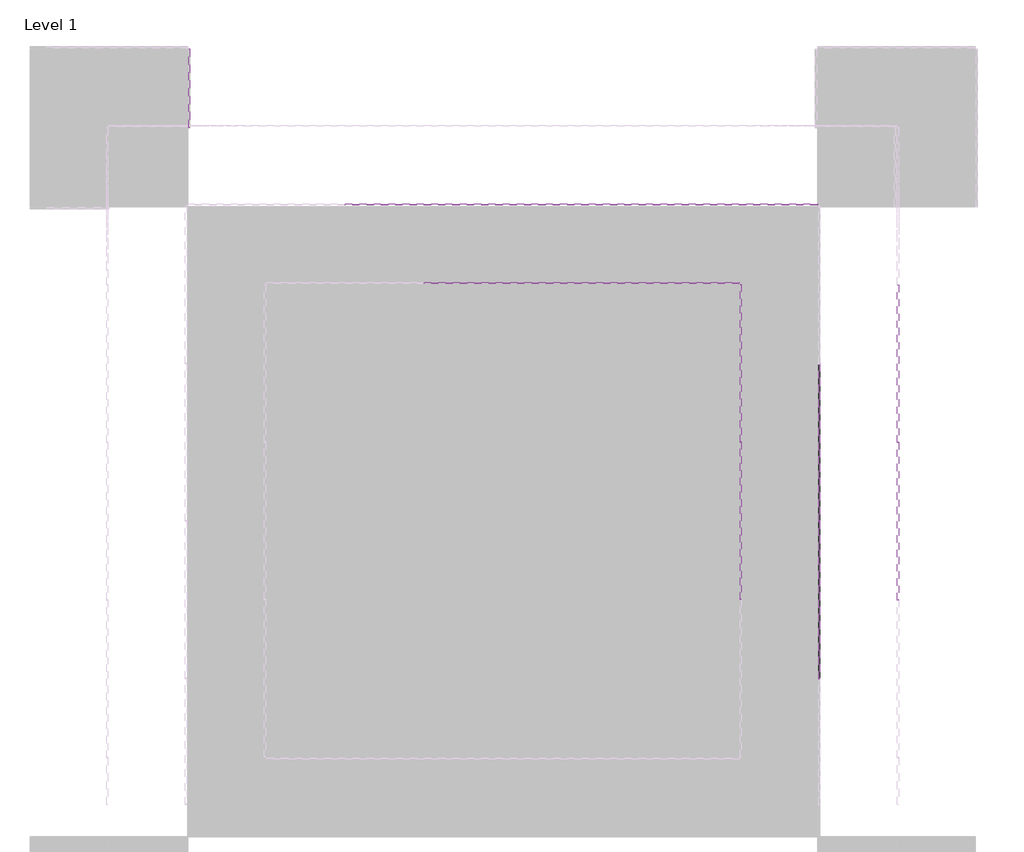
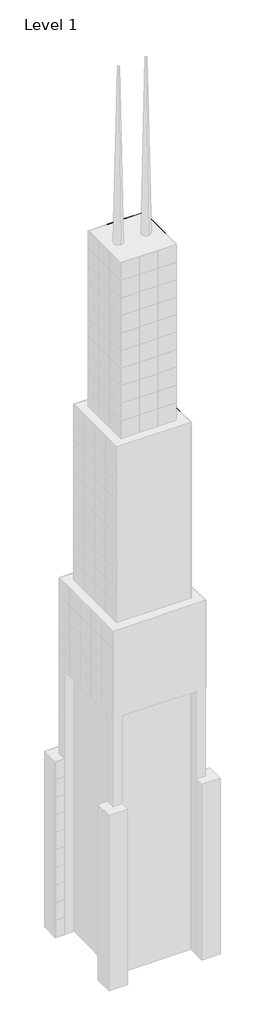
# One storey, part 9 of 15: 137 plates.
"""IFC4 building model written with IfcOpenShell, lengths in millimetres."""

from ifc_helpers import new_model, si_unit, origin, place, context, project, spatial, transform, mapped, element, save
from components import system_panel_glazed_9c75bc08, system_panel_glazed_aa64d645, system_panel_glazed_b248394d

model = new_model("IFC4")

# Units and contexts
model_context = context("Model", 3, world=origin())
ifc_project = project(units=[si_unit("LENGTHUNIT", "METRE", prefix="MILLI")], contexts=[model_context])

# Site, building, storey
site = spatial("IfcSite", under=ifc_project)
building = spatial("IfcBuilding", under=site)
storey = spatial("IfcBuildingStorey", under=building, Name="Level 1", Elevation=0.0)

# Plates
placement = place(None, origin())
system_panel_glazed_shape = system_panel_glazed_9c75bc08(model_context)
element("IfcPlate", 1, ObjectType="System Panel : Glazed", at=placement, inside=storey, context=model_context, shape_type="MappedRepresentation", body=[
    mapped(system_panel_glazed_shape, transform((-19315.4161695, 10259.9495511, 18288.0), x_axis=(0.0, 1.0, 0.0), y_axis=(-1.0, 0.0, 0.0), z_axis=(0.0, 0.0, 1.0))),
])
element("IfcPlate", 2, ObjectType="System Panel : Glazed", at=placement, inside=storey, context=model_context, shape_type="MappedRepresentation", body=[
    mapped(system_panel_glazed_shape, transform((-19315.4161695, 10259.9495511, 21336.0), x_axis=(0.0, 1.0, 0.0), y_axis=(-1.0, 0.0, 0.0), z_axis=(0.0, 0.0, 1.0))),
])
element("IfcPlate", 3, ObjectType="System Panel : Glazed", at=placement, inside=storey, context=model_context, shape_type="MappedRepresentation", body=[
    mapped(system_panel_glazed_shape, transform((-19315.4161695, 10259.9495511, 24384.0), x_axis=(0.0, 1.0, 0.0), y_axis=(-1.0, 0.0, 0.0), z_axis=(0.0, 0.0, 1.0))),
])
element("IfcPlate", 4, ObjectType="System Panel : Glazed", at=placement, inside=storey, context=model_context, shape_type="MappedRepresentation", body=[
    mapped(system_panel_glazed_shape, transform((-19315.4161695, 10259.9495511, 27432.0), x_axis=(0.0, 1.0, 0.0), y_axis=(-1.0, 0.0, 0.0), z_axis=(0.0, 0.0, 1.0))),
])
system_panel_glazed_2_shape = system_panel_glazed_aa64d645(model_context)
element("IfcPlate", 5, ObjectType="System Panel : Glazed", at=placement, inside=storey, context=model_context, shape_type="MappedRepresentation", body=[
    mapped(system_panel_glazed_2_shape, transform((-5599.4161695, 1877.9495511, 45720.0), x_axis=(0.0, 1.0, 0.0), y_axis=(-1.0, 0.0, 0.0), z_axis=(0.0, 0.0, 1.0))),
])
element("IfcPlate", 6, ObjectType="System Panel : Glazed", at=placement, inside=storey, context=model_context, shape_type="MappedRepresentation", body=[
    mapped(system_panel_glazed_2_shape, transform((-5599.4161695, 4925.9495511, 45720.0), x_axis=(0.0, 1.0, 0.0), y_axis=(-1.0, 0.0, 0.0), z_axis=(0.0, 0.0, 1.0))),
])
element("IfcPlate", 7, ObjectType="System Panel : Glazed", at=placement, inside=storey, context=model_context, shape_type="MappedRepresentation", body=[
    mapped(system_panel_glazed_2_shape, transform((-5599.4161695, 1877.9495511, 48768.0), x_axis=(0.0, 1.0, 0.0), y_axis=(-1.0, 0.0, 0.0), z_axis=(0.0, 0.0, 1.0))),
])
element("IfcPlate", 8, ObjectType="System Panel : Glazed", at=placement, inside=storey, context=model_context, shape_type="MappedRepresentation", body=[
    mapped(system_panel_glazed_2_shape, transform((-5599.4161695, 4925.9495511, 48768.0), x_axis=(0.0, 1.0, 0.0), y_axis=(-1.0, 0.0, 0.0), z_axis=(0.0, 0.0, 1.0))),
])
element("IfcPlate", 9, ObjectType="System Panel : Glazed", at=placement, inside=storey, context=model_context, shape_type="MappedRepresentation", body=[
    mapped(system_panel_glazed_2_shape, transform((-5599.4161695, 1877.9495511, 51816.0), x_axis=(0.0, 1.0, 0.0), y_axis=(-1.0, 0.0, 0.0), z_axis=(0.0, 0.0, 1.0))),
])
element("IfcPlate", 10, ObjectType="System Panel : Glazed", at=placement, inside=storey, context=model_context, shape_type="MappedRepresentation", body=[
    mapped(system_panel_glazed_2_shape, transform((-5599.4161695, 4925.9495511, 51816.0), x_axis=(0.0, 1.0, 0.0), y_axis=(-1.0, 0.0, 0.0), z_axis=(0.0, 0.0, 1.0))),
])
element("IfcPlate", 11, ObjectType="System Panel : Glazed", at=placement, inside=storey, context=model_context, shape_type="MappedRepresentation", body=[
    mapped(system_panel_glazed_2_shape, transform((-5599.4161695, 1877.9495511, 54864.0), x_axis=(0.0, 1.0, 0.0), y_axis=(-1.0, 0.0, 0.0), z_axis=(0.0, 0.0, 1.0))),
])
element("IfcPlate", 12, ObjectType="System Panel : Glazed", at=placement, inside=storey, context=model_context, shape_type="MappedRepresentation", body=[
    mapped(system_panel_glazed_2_shape, transform((-5599.4161695, 4925.9495511, 54864.0), x_axis=(0.0, 1.0, 0.0), y_axis=(-1.0, 0.0, 0.0), z_axis=(0.0, 0.0, 1.0))),
])
element("IfcPlate", 13, ObjectType="System Panel : Glazed", at=placement, inside=storey, context=model_context, shape_type="MappedRepresentation", body=[
    mapped(system_panel_glazed_2_shape, transform((-5599.4161695, 1877.9495511, 57912.0), x_axis=(0.0, 1.0, 0.0), y_axis=(-1.0, 0.0, 0.0), z_axis=(0.0, 0.0, 1.0))),
])
element("IfcPlate", 14, ObjectType="System Panel : Glazed", at=placement, inside=storey, context=model_context, shape_type="MappedRepresentation", body=[
    mapped(system_panel_glazed_2_shape, transform((-5599.4161695, 4925.9495511, 57912.0), x_axis=(0.0, 1.0, 0.0), y_axis=(-1.0, 0.0, 0.0), z_axis=(0.0, 0.0, 1.0))),
])
element("IfcPlate", 15, ObjectType="System Panel : Glazed", at=placement, inside=storey, context=model_context, shape_type="MappedRepresentation", body=[
    mapped(system_panel_glazed_2_shape, transform((-7123.4161695, 353.9495511, 60960.0), x_axis=(0.0, 1.0, 0.0), y_axis=(-1.0, 0.0, 0.0), z_axis=(0.0, 0.0, 1.0))),
])
element("IfcPlate", 16, ObjectType="System Panel : Glazed", at=placement, inside=storey, context=model_context, shape_type="MappedRepresentation", body=[
    mapped(system_panel_glazed_2_shape, transform((-7123.4161695, 3401.9495511, 60960.0), x_axis=(0.0, 1.0, 0.0), y_axis=(-1.0, 0.0, 0.0), z_axis=(0.0, 0.0, 1.0))),
])
element("IfcPlate", 17, ObjectType="System Panel : Glazed", at=placement, inside=storey, context=model_context, shape_type="MappedRepresentation", body=[
    mapped(system_panel_glazed_2_shape, transform((-7123.4161695, 6449.9495511, 60960.0), x_axis=(0.0, 1.0, 0.0), y_axis=(-1.0, 0.0, 0.0), z_axis=(0.0, 0.0, 1.0))),
])
element("IfcPlate", 18, ObjectType="System Panel : Glazed", at=placement, inside=storey, context=model_context, shape_type="MappedRepresentation", body=[
    mapped(system_panel_glazed_2_shape, transform((-7123.4161695, 353.9495511, 64008.0), x_axis=(0.0, 1.0, 0.0), y_axis=(-1.0, 0.0, 0.0), z_axis=(0.0, 0.0, 1.0))),
])
element("IfcPlate", 19, ObjectType="System Panel : Glazed", at=placement, inside=storey, context=model_context, shape_type="MappedRepresentation", body=[
    mapped(system_panel_glazed_2_shape, transform((-7123.4161695, 3401.9495511, 64008.0), x_axis=(0.0, 1.0, 0.0), y_axis=(-1.0, 0.0, 0.0), z_axis=(0.0, 0.0, 1.0))),
])
element("IfcPlate", 20, ObjectType="System Panel : Glazed", at=placement, inside=storey, context=model_context, shape_type="MappedRepresentation", body=[
    mapped(system_panel_glazed_2_shape, transform((-7123.4161695, 6449.9495511, 64008.0), x_axis=(0.0, 1.0, 0.0), y_axis=(-1.0, 0.0, 0.0), z_axis=(0.0, 0.0, 1.0))),
])
element("IfcPlate", 21, ObjectType="System Panel : Glazed", at=placement, inside=storey, context=model_context, shape_type="MappedRepresentation", body=[
    mapped(system_panel_glazed_2_shape, transform((-7123.4161695, 353.9495511, 67056.0), x_axis=(0.0, 1.0, 0.0), y_axis=(-1.0, 0.0, 0.0), z_axis=(0.0, 0.0, 1.0))),
])
element("IfcPlate", 22, ObjectType="System Panel : Glazed", at=placement, inside=storey, context=model_context, shape_type="MappedRepresentation", body=[
    mapped(system_panel_glazed_2_shape, transform((-7123.4161695, 3401.9495511, 67056.0), x_axis=(0.0, 1.0, 0.0), y_axis=(-1.0, 0.0, 0.0), z_axis=(0.0, 0.0, 1.0))),
])
element("IfcPlate", 23, ObjectType="System Panel : Glazed", at=placement, inside=storey, context=model_context, shape_type="MappedRepresentation", body=[
    mapped(system_panel_glazed_2_shape, transform((-7123.4161695, 6449.9495511, 67056.0), x_axis=(0.0, 1.0, 0.0), y_axis=(-1.0, 0.0, 0.0), z_axis=(0.0, 0.0, 1.0))),
])
element("IfcPlate", 24, ObjectType="System Panel : Glazed", at=placement, inside=storey, context=model_context, shape_type="MappedRepresentation", body=[
    mapped(system_panel_glazed_2_shape, transform((-7123.4161695, 353.9495511, 70104.0), x_axis=(0.0, 1.0, 0.0), y_axis=(-1.0, 0.0, 0.0), z_axis=(0.0, 0.0, 1.0))),
])
element("IfcPlate", 25, ObjectType="System Panel : Glazed", at=placement, inside=storey, context=model_context, shape_type="MappedRepresentation", body=[
    mapped(system_panel_glazed_2_shape, transform((-7123.4161695, 3401.9495511, 70104.0), x_axis=(0.0, 1.0, 0.0), y_axis=(-1.0, 0.0, 0.0), z_axis=(0.0, 0.0, 1.0))),
])
element("IfcPlate", 26, ObjectType="System Panel : Glazed", at=placement, inside=storey, context=model_context, shape_type="MappedRepresentation", body=[
    mapped(system_panel_glazed_2_shape, transform((-7123.4161695, 353.9495511, 73152.0), x_axis=(0.0, 1.0, 0.0), y_axis=(-1.0, 0.0, 0.0), z_axis=(0.0, 0.0, 1.0))),
])
element("IfcPlate", 27, ObjectType="System Panel : Glazed", at=placement, inside=storey, context=model_context, shape_type="MappedRepresentation", body=[
    mapped(system_panel_glazed_2_shape, transform((-7123.4161695, 3401.9495511, 73152.0), x_axis=(0.0, 1.0, 0.0), y_axis=(-1.0, 0.0, 0.0), z_axis=(0.0, 0.0, 1.0))),
])
element("IfcPlate", 28, ObjectType="System Panel : Glazed", at=placement, inside=storey, context=model_context, shape_type="MappedRepresentation", body=[
    mapped(system_panel_glazed_2_shape, transform((-7123.4161695, 353.9495511, 76200.0), x_axis=(0.0, 1.0, 0.0), y_axis=(-1.0, 0.0, 0.0), z_axis=(0.0, 0.0, 1.0))),
])
element("IfcPlate", 29, ObjectType="System Panel : Glazed", at=placement, inside=storey, context=model_context, shape_type="MappedRepresentation", body=[
    mapped(system_panel_glazed_2_shape, transform((-7123.4161695, 3401.9495511, 76200.0), x_axis=(0.0, 1.0, 0.0), y_axis=(-1.0, 0.0, 0.0), z_axis=(0.0, 0.0, 1.0))),
])
element("IfcPlate", 30, ObjectType="System Panel : Glazed", at=placement, inside=storey, context=model_context, shape_type="MappedRepresentation", body=[
    mapped(system_panel_glazed_2_shape, transform((-7123.4161695, 353.9495511, 79248.0), x_axis=(0.0, 1.0, 0.0), y_axis=(-1.0, 0.0, 0.0), z_axis=(0.0, 0.0, 1.0))),
])
element("IfcPlate", 31, ObjectType="System Panel : Glazed", at=placement, inside=storey, context=model_context, shape_type="MappedRepresentation", body=[
    mapped(system_panel_glazed_2_shape, transform((-7123.4161695, 3401.9495511, 79248.0), x_axis=(0.0, 1.0, 0.0), y_axis=(-1.0, 0.0, 0.0), z_axis=(0.0, 0.0, 1.0))),
])
element("IfcPlate", 32, ObjectType="System Panel : Glazed", at=placement, inside=storey, context=model_context, shape_type="MappedRepresentation", body=[
    mapped(system_panel_glazed_2_shape, transform((-7123.4161695, 353.9495511, 82296.0), x_axis=(0.0, 1.0, 0.0), y_axis=(-1.0, 0.0, 0.0), z_axis=(0.0, 0.0, 1.0))),
])
element("IfcPlate", 33, ObjectType="System Panel : Glazed", at=placement, inside=storey, context=model_context, shape_type="MappedRepresentation", body=[
    mapped(system_panel_glazed_2_shape, transform((-7123.4161695, 3401.9495511, 82296.0), x_axis=(0.0, 1.0, 0.0), y_axis=(-1.0, 0.0, 0.0), z_axis=(0.0, 0.0, 1.0))),
])
element("IfcPlate", 34, ObjectType="System Panel : Glazed", at=placement, inside=storey, context=model_context, shape_type="MappedRepresentation", body=[
    mapped(system_panel_glazed_2_shape, transform((-7123.4161695, 353.9495511, 85344.0), x_axis=(0.0, 1.0, 0.0), y_axis=(-1.0, 0.0, 0.0), z_axis=(0.0, 0.0, 1.0))),
])
element("IfcPlate", 35, ObjectType="System Panel : Glazed", at=placement, inside=storey, context=model_context, shape_type="MappedRepresentation", body=[
    mapped(system_panel_glazed_2_shape, transform((-7123.4161695, 3401.9495511, 85344.0), x_axis=(0.0, 1.0, 0.0), y_axis=(-1.0, 0.0, 0.0), z_axis=(0.0, 0.0, 1.0))),
])
element("IfcPlate", 36, ObjectType="System Panel : Glazed", at=placement, inside=storey, context=model_context, shape_type="MappedRepresentation", body=[
    mapped(system_panel_glazed_2_shape, transform((-7123.4161695, 353.9495511, 88392.0), x_axis=(0.0, 1.0, 0.0), y_axis=(-1.0, 0.0, 0.0), z_axis=(0.0, 0.0, 1.0))),
])
element("IfcPlate", 37, ObjectType="System Panel : Glazed", at=placement, inside=storey, context=model_context, shape_type="MappedRepresentation", body=[
    mapped(system_panel_glazed_2_shape, transform((-7123.4161695, 3401.9495511, 88392.0), x_axis=(0.0, 1.0, 0.0), y_axis=(-1.0, 0.0, 0.0), z_axis=(0.0, 0.0, 1.0))),
])
element("IfcPlate", 38, ObjectType="System Panel : Glazed", at=placement, inside=storey, context=model_context, shape_type="MappedRepresentation", body=[
    mapped(system_panel_glazed_2_shape, transform((-8647.4161695, 7973.9495511, 60960.0), x_axis=(-1.0, 0.0, 0.0), y_axis=(0.0, -1.0, 0.0), z_axis=(0.0, 0.0, 1.0))),
])
element("IfcPlate", 39, ObjectType="System Panel : Glazed", at=placement, inside=storey, context=model_context, shape_type="MappedRepresentation", body=[
    mapped(system_panel_glazed_2_shape, transform((-11695.4161695, 7973.9495511, 60960.0), x_axis=(-1.0, 0.0, 0.0), y_axis=(0.0, -1.0, 0.0), z_axis=(0.0, 0.0, 1.0))),
])
element("IfcPlate", 40, ObjectType="System Panel : Glazed", at=placement, inside=storey, context=model_context, shape_type="MappedRepresentation", body=[
    mapped(system_panel_glazed_2_shape, transform((-14743.4161695, 7973.9495511, 60960.0), x_axis=(-1.0, 0.0, 0.0), y_axis=(0.0, -1.0, 0.0), z_axis=(0.0, 0.0, 1.0))),
])
element("IfcPlate", 41, ObjectType="System Panel : Glazed", at=placement, inside=storey, context=model_context, shape_type="MappedRepresentation", body=[
    mapped(system_panel_glazed_2_shape, transform((-8647.4161695, 7973.9495511, 64008.0), x_axis=(-1.0, 0.0, 0.0), y_axis=(0.0, -1.0, 0.0), z_axis=(0.0, 0.0, 1.0))),
])
element("IfcPlate", 42, ObjectType="System Panel : Glazed", at=placement, inside=storey, context=model_context, shape_type="MappedRepresentation", body=[
    mapped(system_panel_glazed_2_shape, transform((-11695.4161695, 7973.9495511, 64008.0), x_axis=(-1.0, 0.0, 0.0), y_axis=(0.0, -1.0, 0.0), z_axis=(0.0, 0.0, 1.0))),
])
element("IfcPlate", 43, ObjectType="System Panel : Glazed", at=placement, inside=storey, context=model_context, shape_type="MappedRepresentation", body=[
    mapped(system_panel_glazed_2_shape, transform((-14743.4161695, 7973.9495511, 64008.0), x_axis=(-1.0, 0.0, 0.0), y_axis=(0.0, -1.0, 0.0), z_axis=(0.0, 0.0, 1.0))),
])
element("IfcPlate", 44, ObjectType="System Panel : Glazed", at=placement, inside=storey, context=model_context, shape_type="MappedRepresentation", body=[
    mapped(system_panel_glazed_2_shape, transform((-8647.4161695, 7973.9495511, 67056.0), x_axis=(-1.0, 0.0, 0.0), y_axis=(0.0, -1.0, 0.0), z_axis=(0.0, 0.0, 1.0))),
])
element("IfcPlate", 45, ObjectType="System Panel : Glazed", at=placement, inside=storey, context=model_context, shape_type="MappedRepresentation", body=[
    mapped(system_panel_glazed_2_shape, transform((-11695.4161695, 7973.9495511, 67056.0), x_axis=(-1.0, 0.0, 0.0), y_axis=(0.0, -1.0, 0.0), z_axis=(0.0, 0.0, 1.0))),
])
element("IfcPlate", 46, ObjectType="System Panel : Glazed", at=placement, inside=storey, context=model_context, shape_type="MappedRepresentation", body=[
    mapped(system_panel_glazed_2_shape, transform((-14743.4161695, 7973.9495511, 67056.0), x_axis=(-1.0, 0.0, 0.0), y_axis=(0.0, -1.0, 0.0), z_axis=(0.0, 0.0, 1.0))),
])
element("IfcPlate", 47, ObjectType="System Panel : Glazed", at=placement, inside=storey, context=model_context, shape_type="MappedRepresentation", body=[
    mapped(system_panel_glazed_2_shape, transform((-8647.4161695, 7973.9495511, 70104.0), x_axis=(-1.0, 0.0, 0.0), y_axis=(0.0, -1.0, 0.0), z_axis=(0.0, 0.0, 1.0))),
])
element("IfcPlate", 48, ObjectType="System Panel : Glazed", at=placement, inside=storey, context=model_context, shape_type="MappedRepresentation", body=[
    mapped(system_panel_glazed_2_shape, transform((-11695.4161695, 7973.9495511, 70104.0), x_axis=(-1.0, 0.0, 0.0), y_axis=(0.0, -1.0, 0.0), z_axis=(0.0, 0.0, 1.0))),
])
element("IfcPlate", 49, ObjectType="System Panel : Glazed", at=placement, inside=storey, context=model_context, shape_type="MappedRepresentation", body=[
    mapped(system_panel_glazed_2_shape, transform((-14743.4161695, 7973.9495511, 70104.0), x_axis=(-1.0, 0.0, 0.0), y_axis=(0.0, -1.0, 0.0), z_axis=(0.0, 0.0, 1.0))),
])
element("IfcPlate", 50, ObjectType="System Panel : Glazed", at=placement, inside=storey, context=model_context, shape_type="MappedRepresentation", body=[
    mapped(system_panel_glazed_2_shape, transform((-8647.4161695, 7973.9495511, 73152.0), x_axis=(-1.0, 0.0, 0.0), y_axis=(0.0, -1.0, 0.0), z_axis=(0.0, 0.0, 1.0))),
])
element("IfcPlate", 51, ObjectType="System Panel : Glazed", at=placement, inside=storey, context=model_context, shape_type="MappedRepresentation", body=[
    mapped(system_panel_glazed_2_shape, transform((-11695.4161695, 7973.9495511, 73152.0), x_axis=(-1.0, 0.0, 0.0), y_axis=(0.0, -1.0, 0.0), z_axis=(0.0, 0.0, 1.0))),
])
element("IfcPlate", 52, ObjectType="System Panel : Glazed", at=placement, inside=storey, context=model_context, shape_type="MappedRepresentation", body=[
    mapped(system_panel_glazed_2_shape, transform((-14743.4161695, 7973.9495511, 73152.0), x_axis=(-1.0, 0.0, 0.0), y_axis=(0.0, -1.0, 0.0), z_axis=(0.0, 0.0, 1.0))),
])
element("IfcPlate", 53, ObjectType="System Panel : Glazed", at=placement, inside=storey, context=model_context, shape_type="MappedRepresentation", body=[
    mapped(system_panel_glazed_2_shape, transform((-8647.4161695, 7973.9495511, 76200.0), x_axis=(-1.0, 0.0, 0.0), y_axis=(0.0, -1.0, 0.0), z_axis=(0.0, 0.0, 1.0))),
])
element("IfcPlate", 54, ObjectType="System Panel : Glazed", at=placement, inside=storey, context=model_context, shape_type="MappedRepresentation", body=[
    mapped(system_panel_glazed_2_shape, transform((-11695.4161695, 7973.9495511, 76200.0), x_axis=(-1.0, 0.0, 0.0), y_axis=(0.0, -1.0, 0.0), z_axis=(0.0, 0.0, 1.0))),
])
element("IfcPlate", 55, ObjectType="System Panel : Glazed", at=placement, inside=storey, context=model_context, shape_type="MappedRepresentation", body=[
    mapped(system_panel_glazed_2_shape, transform((-14743.4161695, 7973.9495511, 76200.0), x_axis=(-1.0, 0.0, 0.0), y_axis=(0.0, -1.0, 0.0), z_axis=(0.0, 0.0, 1.0))),
])
element("IfcPlate", 56, ObjectType="System Panel : Glazed", at=placement, inside=storey, context=model_context, shape_type="MappedRepresentation", body=[
    mapped(system_panel_glazed_2_shape, transform((-8647.4161695, 7973.9495511, 79248.0), x_axis=(-1.0, 0.0, 0.0), y_axis=(0.0, -1.0, 0.0), z_axis=(0.0, 0.0, 1.0))),
])
element("IfcPlate", 57, ObjectType="System Panel : Glazed", at=placement, inside=storey, context=model_context, shape_type="MappedRepresentation", body=[
    mapped(system_panel_glazed_2_shape, transform((-11695.4161695, 7973.9495511, 79248.0), x_axis=(-1.0, 0.0, 0.0), y_axis=(0.0, -1.0, 0.0), z_axis=(0.0, 0.0, 1.0))),
])
element("IfcPlate", 58, ObjectType="System Panel : Glazed", at=placement, inside=storey, context=model_context, shape_type="MappedRepresentation", body=[
    mapped(system_panel_glazed_2_shape, transform((-14743.4161695, 7973.9495511, 79248.0), x_axis=(-1.0, 0.0, 0.0), y_axis=(0.0, -1.0, 0.0), z_axis=(0.0, 0.0, 1.0))),
])
element("IfcPlate", 59, ObjectType="System Panel : Glazed", at=placement, inside=storey, context=model_context, shape_type="MappedRepresentation", body=[
    mapped(system_panel_glazed_2_shape, transform((-8647.4161695, 7973.9495511, 82296.0), x_axis=(-1.0, 0.0, 0.0), y_axis=(0.0, -1.0, 0.0), z_axis=(0.0, 0.0, 1.0))),
])
element("IfcPlate", 60, ObjectType="System Panel : Glazed", at=placement, inside=storey, context=model_context, shape_type="MappedRepresentation", body=[
    mapped(system_panel_glazed_2_shape, transform((-11695.4161695, 7973.9495511, 82296.0), x_axis=(-1.0, 0.0, 0.0), y_axis=(0.0, -1.0, 0.0), z_axis=(0.0, 0.0, 1.0))),
])
element("IfcPlate", 61, ObjectType="System Panel : Glazed", at=placement, inside=storey, context=model_context, shape_type="MappedRepresentation", body=[
    mapped(system_panel_glazed_2_shape, transform((-14743.4161695, 7973.9495511, 82296.0), x_axis=(-1.0, 0.0, 0.0), y_axis=(0.0, -1.0, 0.0), z_axis=(0.0, 0.0, 1.0))),
])
element("IfcPlate", 62, ObjectType="System Panel : Glazed", at=placement, inside=storey, context=model_context, shape_type="MappedRepresentation", body=[
    mapped(system_panel_glazed_2_shape, transform((-8647.4161695, 7973.9495511, 85344.0), x_axis=(-1.0, 0.0, 0.0), y_axis=(0.0, -1.0, 0.0), z_axis=(0.0, 0.0, 1.0))),
])
element("IfcPlate", 63, ObjectType="System Panel : Glazed", at=placement, inside=storey, context=model_context, shape_type="MappedRepresentation", body=[
    mapped(system_panel_glazed_2_shape, transform((-11695.4161695, 7973.9495511, 85344.0), x_axis=(-1.0, 0.0, 0.0), y_axis=(0.0, -1.0, 0.0), z_axis=(0.0, 0.0, 1.0))),
])
element("IfcPlate", 64, ObjectType="System Panel : Glazed", at=placement, inside=storey, context=model_context, shape_type="MappedRepresentation", body=[
    mapped(system_panel_glazed_2_shape, transform((-14743.4161695, 7973.9495511, 85344.0), x_axis=(-1.0, 0.0, 0.0), y_axis=(0.0, -1.0, 0.0), z_axis=(0.0, 0.0, 1.0))),
])
element("IfcPlate", 65, ObjectType="System Panel : Glazed", at=placement, inside=storey, context=model_context, shape_type="MappedRepresentation", body=[
    mapped(system_panel_glazed_2_shape, transform((-8647.4161695, 7973.9495511, 88392.0), x_axis=(-1.0, 0.0, 0.0), y_axis=(0.0, -1.0, 0.0), z_axis=(0.0, 0.0, 1.0))),
])
element("IfcPlate", 66, ObjectType="System Panel : Glazed", at=placement, inside=storey, context=model_context, shape_type="MappedRepresentation", body=[
    mapped(system_panel_glazed_2_shape, transform((-11695.4161695, 7973.9495511, 88392.0), x_axis=(-1.0, 0.0, 0.0), y_axis=(0.0, -1.0, 0.0), z_axis=(0.0, 0.0, 1.0))),
])
element("IfcPlate", 67, ObjectType="System Panel : Glazed", at=placement, inside=storey, context=model_context, shape_type="MappedRepresentation", body=[
    mapped(system_panel_glazed_2_shape, transform((-14743.4161695, 7973.9495511, 88392.0), x_axis=(-1.0, 0.0, 0.0), y_axis=(0.0, -1.0, 0.0), z_axis=(0.0, 0.0, 1.0))),
])
element("IfcPlate", 68, ObjectType="System Panel : Glazed", at=placement, inside=storey, context=model_context, shape_type="MappedRepresentation", body=[
    mapped(system_panel_glazed_2_shape, transform((-10165.8488996, 6449.9495511, 91440.0), x_axis=(-1.0, 0.0, 0.0), y_axis=(0.0, -1.0, 0.0), z_axis=(0.0, 0.0, 1.0))),
])
element("IfcPlate", 69, ObjectType="System Panel : Glazed", at=placement, inside=storey, context=model_context, shape_type="MappedRepresentation", body=[
    mapped(system_panel_glazed_2_shape, transform((-13213.8488996, 6449.9495511, 91440.0), x_axis=(-1.0, 0.0, 0.0), y_axis=(0.0, -1.0, 0.0), z_axis=(0.0, 0.0, 1.0))),
])
element("IfcPlate", 70, ObjectType="System Panel : Glazed", at=placement, inside=storey, context=model_context, shape_type="MappedRepresentation", body=[
    mapped(system_panel_glazed_2_shape, transform((-10165.8488996, 6449.9495511, 94488.0), x_axis=(-1.0, 0.0, 0.0), y_axis=(0.0, -1.0, 0.0), z_axis=(0.0, 0.0, 1.0))),
])
element("IfcPlate", 71, ObjectType="System Panel : Glazed", at=placement, inside=storey, context=model_context, shape_type="MappedRepresentation", body=[
    mapped(system_panel_glazed_2_shape, transform((-13213.8488996, 6449.9495511, 94488.0), x_axis=(-1.0, 0.0, 0.0), y_axis=(0.0, -1.0, 0.0), z_axis=(0.0, 0.0, 1.0))),
])
element("IfcPlate", 72, ObjectType="System Panel : Glazed", at=placement, inside=storey, context=model_context, shape_type="MappedRepresentation", body=[
    mapped(system_panel_glazed_2_shape, transform((-10165.8488996, 6449.9495511, 97536.0), x_axis=(-1.0, 0.0, 0.0), y_axis=(0.0, -1.0, 0.0), z_axis=(0.0, 0.0, 1.0))),
])
element("IfcPlate", 73, ObjectType="System Panel : Glazed", at=placement, inside=storey, context=model_context, shape_type="MappedRepresentation", body=[
    mapped(system_panel_glazed_2_shape, transform((-13213.8488996, 6449.9495511, 97536.0), x_axis=(-1.0, 0.0, 0.0), y_axis=(0.0, -1.0, 0.0), z_axis=(0.0, 0.0, 1.0))),
])
element("IfcPlate", 74, ObjectType="System Panel : Glazed", at=placement, inside=storey, context=model_context, shape_type="MappedRepresentation", body=[
    mapped(system_panel_glazed_2_shape, transform((-10165.8488996, 6449.9495511, 100584.0), x_axis=(-1.0, 0.0, 0.0), y_axis=(0.0, -1.0, 0.0), z_axis=(0.0, 0.0, 1.0))),
])
element("IfcPlate", 75, ObjectType="System Panel : Glazed", at=placement, inside=storey, context=model_context, shape_type="MappedRepresentation", body=[
    mapped(system_panel_glazed_2_shape, transform((-13213.8488996, 6449.9495511, 100584.0), x_axis=(-1.0, 0.0, 0.0), y_axis=(0.0, -1.0, 0.0), z_axis=(0.0, 0.0, 1.0))),
])
element("IfcPlate", 76, ObjectType="System Panel : Glazed", at=placement, inside=storey, context=model_context, shape_type="MappedRepresentation", body=[
    mapped(system_panel_glazed_2_shape, transform((-10165.8488996, 6449.9495511, 103632.0), x_axis=(-1.0, 0.0, 0.0), y_axis=(0.0, -1.0, 0.0), z_axis=(0.0, 0.0, 1.0))),
])
element("IfcPlate", 77, ObjectType="System Panel : Glazed", at=placement, inside=storey, context=model_context, shape_type="MappedRepresentation", body=[
    mapped(system_panel_glazed_2_shape, transform((-13213.8488996, 6449.9495511, 103632.0), x_axis=(-1.0, 0.0, 0.0), y_axis=(0.0, -1.0, 0.0), z_axis=(0.0, 0.0, 1.0))),
])
element("IfcPlate", 78, ObjectType="System Panel : Glazed", at=placement, inside=storey, context=model_context, shape_type="MappedRepresentation", body=[
    mapped(system_panel_glazed_2_shape, transform((-10165.8488996, 6449.9495511, 106680.0), x_axis=(-1.0, 0.0, 0.0), y_axis=(0.0, -1.0, 0.0), z_axis=(0.0, 0.0, 1.0))),
])
element("IfcPlate", 79, ObjectType="System Panel : Glazed", at=placement, inside=storey, context=model_context, shape_type="MappedRepresentation", body=[
    mapped(system_panel_glazed_2_shape, transform((-13213.8488996, 6449.9495511, 106680.0), x_axis=(-1.0, 0.0, 0.0), y_axis=(0.0, -1.0, 0.0), z_axis=(0.0, 0.0, 1.0))),
])
element("IfcPlate", 80, ObjectType="System Panel : Glazed", at=placement, inside=storey, context=model_context, shape_type="MappedRepresentation", body=[
    mapped(system_panel_glazed_2_shape, transform((-10165.8488996, 6449.9495511, 109728.0), x_axis=(-1.0, 0.0, 0.0), y_axis=(0.0, -1.0, 0.0), z_axis=(0.0, 0.0, 1.0))),
])
element("IfcPlate", 81, ObjectType="System Panel : Glazed", at=placement, inside=storey, context=model_context, shape_type="MappedRepresentation", body=[
    mapped(system_panel_glazed_2_shape, transform((-13213.8488996, 6449.9495511, 109728.0), x_axis=(-1.0, 0.0, 0.0), y_axis=(0.0, -1.0, 0.0), z_axis=(0.0, 0.0, 1.0))),
])
element("IfcPlate", 82, ObjectType="System Panel : Glazed", at=placement, inside=storey, context=model_context, shape_type="MappedRepresentation", body=[
    mapped(system_panel_glazed_2_shape, transform((-10165.8488996, 6449.9495511, 112776.0), x_axis=(-1.0, 0.0, 0.0), y_axis=(0.0, -1.0, 0.0), z_axis=(0.0, 0.0, 1.0))),
])
element("IfcPlate", 83, ObjectType="System Panel : Glazed", at=placement, inside=storey, context=model_context, shape_type="MappedRepresentation", body=[
    mapped(system_panel_glazed_2_shape, transform((-13213.8488996, 6449.9495511, 112776.0), x_axis=(-1.0, 0.0, 0.0), y_axis=(0.0, -1.0, 0.0), z_axis=(0.0, 0.0, 1.0))),
])
element("IfcPlate", 84, ObjectType="System Panel : Glazed", at=placement, inside=storey, context=model_context, shape_type="MappedRepresentation", body=[
    mapped(system_panel_glazed_2_shape, transform((-10165.8488996, 6449.9495511, 115824.0), x_axis=(-1.0, 0.0, 0.0), y_axis=(0.0, -1.0, 0.0), z_axis=(0.0, 0.0, 1.0))),
])
element("IfcPlate", 85, ObjectType="System Panel : Glazed", at=placement, inside=storey, context=model_context, shape_type="MappedRepresentation", body=[
    mapped(system_panel_glazed_2_shape, transform((-13213.8488996, 6449.9495511, 115824.0), x_axis=(-1.0, 0.0, 0.0), y_axis=(0.0, -1.0, 0.0), z_axis=(0.0, 0.0, 1.0))),
])
element("IfcPlate", 86, ObjectType="System Panel : Glazed", at=placement, inside=storey, context=model_context, shape_type="MappedRepresentation", body=[
    mapped(system_panel_glazed_2_shape, transform((-10165.8488996, 6449.9495511, 118872.0), x_axis=(-1.0, 0.0, 0.0), y_axis=(0.0, -1.0, 0.0), z_axis=(0.0, 0.0, 1.0))),
])
element("IfcPlate", 87, ObjectType="System Panel : Glazed", at=placement, inside=storey, context=model_context, shape_type="MappedRepresentation", body=[
    mapped(system_panel_glazed_2_shape, transform((-13213.8488996, 6449.9495511, 118872.0), x_axis=(-1.0, 0.0, 0.0), y_axis=(0.0, -1.0, 0.0), z_axis=(0.0, 0.0, 1.0))),
])
element("IfcPlate", 88, ObjectType="System Panel : Glazed", at=placement, inside=storey, context=model_context, shape_type="MappedRepresentation", body=[
    mapped(system_panel_glazed_2_shape, transform((-8641.8488996, 1877.9495511, 91440.0), x_axis=(0.0, 1.0, 0.0), y_axis=(-1.0, 0.0, 0.0), z_axis=(0.0, 0.0, 1.0))),
])
element("IfcPlate", 89, ObjectType="System Panel : Glazed", at=placement, inside=storey, context=model_context, shape_type="MappedRepresentation", body=[
    mapped(system_panel_glazed_2_shape, transform((-8641.8488996, 4925.9495511, 91440.0), x_axis=(0.0, 1.0, 0.0), y_axis=(-1.0, 0.0, 0.0), z_axis=(0.0, 0.0, 1.0))),
])
element("IfcPlate", 90, ObjectType="System Panel : Glazed", at=placement, inside=storey, context=model_context, shape_type="MappedRepresentation", body=[
    mapped(system_panel_glazed_2_shape, transform((-8641.8488996, 1877.9495511, 94488.0), x_axis=(0.0, 1.0, 0.0), y_axis=(-1.0, 0.0, 0.0), z_axis=(0.0, 0.0, 1.0))),
])
element("IfcPlate", 91, ObjectType="System Panel : Glazed", at=placement, inside=storey, context=model_context, shape_type="MappedRepresentation", body=[
    mapped(system_panel_glazed_2_shape, transform((-8641.8488996, 4925.9495511, 94488.0), x_axis=(0.0, 1.0, 0.0), y_axis=(-1.0, 0.0, 0.0), z_axis=(0.0, 0.0, 1.0))),
])
element("IfcPlate", 92, ObjectType="System Panel : Glazed", at=placement, inside=storey, context=model_context, shape_type="MappedRepresentation", body=[
    mapped(system_panel_glazed_2_shape, transform((-8641.8488996, 1877.9495511, 97536.0), x_axis=(0.0, 1.0, 0.0), y_axis=(-1.0, 0.0, 0.0), z_axis=(0.0, 0.0, 1.0))),
])
element("IfcPlate", 93, ObjectType="System Panel : Glazed", at=placement, inside=storey, context=model_context, shape_type="MappedRepresentation", body=[
    mapped(system_panel_glazed_2_shape, transform((-8641.8488996, 4925.9495511, 97536.0), x_axis=(0.0, 1.0, 0.0), y_axis=(-1.0, 0.0, 0.0), z_axis=(0.0, 0.0, 1.0))),
])
element("IfcPlate", 94, ObjectType="System Panel : Glazed", at=placement, inside=storey, context=model_context, shape_type="MappedRepresentation", body=[
    mapped(system_panel_glazed_2_shape, transform((-8641.8488996, 1877.9495511, 100584.0), x_axis=(0.0, 1.0, 0.0), y_axis=(-1.0, 0.0, 0.0), z_axis=(0.0, 0.0, 1.0))),
])
element("IfcPlate", 95, ObjectType="System Panel : Glazed", at=placement, inside=storey, context=model_context, shape_type="MappedRepresentation", body=[
    mapped(system_panel_glazed_2_shape, transform((-8641.8488996, 4925.9495511, 100584.0), x_axis=(0.0, 1.0, 0.0), y_axis=(-1.0, 0.0, 0.0), z_axis=(0.0, 0.0, 1.0))),
])
element("IfcPlate", 96, ObjectType="System Panel : Glazed", at=placement, inside=storey, context=model_context, shape_type="MappedRepresentation", body=[
    mapped(system_panel_glazed_2_shape, transform((-8641.8488996, 1877.9495511, 103632.0), x_axis=(0.0, 1.0, 0.0), y_axis=(-1.0, 0.0, 0.0), z_axis=(0.0, 0.0, 1.0))),
])
element("IfcPlate", 97, ObjectType="System Panel : Glazed", at=placement, inside=storey, context=model_context, shape_type="MappedRepresentation", body=[
    mapped(system_panel_glazed_2_shape, transform((-8641.8488996, 4925.9495511, 103632.0), x_axis=(0.0, 1.0, 0.0), y_axis=(-1.0, 0.0, 0.0), z_axis=(0.0, 0.0, 1.0))),
])
element("IfcPlate", 98, ObjectType="System Panel : Glazed", at=placement, inside=storey, context=model_context, shape_type="MappedRepresentation", body=[
    mapped(system_panel_glazed_2_shape, transform((-8641.8488996, 1877.9495511, 106680.0), x_axis=(0.0, 1.0, 0.0), y_axis=(-1.0, 0.0, 0.0), z_axis=(0.0, 0.0, 1.0))),
])
element("IfcPlate", 99, ObjectType="System Panel : Glazed", at=placement, inside=storey, context=model_context, shape_type="MappedRepresentation", body=[
    mapped(system_panel_glazed_2_shape, transform((-8641.8488996, 4925.9495511, 106680.0), x_axis=(0.0, 1.0, 0.0), y_axis=(-1.0, 0.0, 0.0), z_axis=(0.0, 0.0, 1.0))),
])
element("IfcPlate", 100, ObjectType="System Panel : Glazed", at=placement, inside=storey, context=model_context, shape_type="MappedRepresentation", body=[
    mapped(system_panel_glazed_2_shape, transform((-8641.8488996, 1877.9495511, 109728.0), x_axis=(0.0, 1.0, 0.0), y_axis=(-1.0, 0.0, 0.0), z_axis=(0.0, 0.0, 1.0))),
])
element("IfcPlate", 101, ObjectType="System Panel : Glazed", at=placement, inside=storey, context=model_context, shape_type="MappedRepresentation", body=[
    mapped(system_panel_glazed_2_shape, transform((-8641.8488996, 4925.9495511, 109728.0), x_axis=(0.0, 1.0, 0.0), y_axis=(-1.0, 0.0, 0.0), z_axis=(0.0, 0.0, 1.0))),
])
element("IfcPlate", 102, ObjectType="System Panel : Glazed", at=placement, inside=storey, context=model_context, shape_type="MappedRepresentation", body=[
    mapped(system_panel_glazed_2_shape, transform((-8641.8488996, 1877.9495511, 112776.0), x_axis=(0.0, 1.0, 0.0), y_axis=(-1.0, 0.0, 0.0), z_axis=(0.0, 0.0, 1.0))),
])
element("IfcPlate", 103, ObjectType="System Panel : Glazed", at=placement, inside=storey, context=model_context, shape_type="MappedRepresentation", body=[
    mapped(system_panel_glazed_2_shape, transform((-8641.8488996, 4925.9495511, 112776.0), x_axis=(0.0, 1.0, 0.0), y_axis=(-1.0, 0.0, 0.0), z_axis=(0.0, 0.0, 1.0))),
])
element("IfcPlate", 104, ObjectType="System Panel : Glazed", at=placement, inside=storey, context=model_context, shape_type="MappedRepresentation", body=[
    mapped(system_panel_glazed_2_shape, transform((-8641.8488996, 1877.9495511, 115824.0), x_axis=(0.0, 1.0, 0.0), y_axis=(-1.0, 0.0, 0.0), z_axis=(0.0, 0.0, 1.0))),
])
element("IfcPlate", 105, ObjectType="System Panel : Glazed", at=placement, inside=storey, context=model_context, shape_type="MappedRepresentation", body=[
    mapped(system_panel_glazed_2_shape, transform((-8641.8488996, 4925.9495511, 115824.0), x_axis=(0.0, 1.0, 0.0), y_axis=(-1.0, 0.0, 0.0), z_axis=(0.0, 0.0, 1.0))),
])
element("IfcPlate", 106, ObjectType="System Panel : Glazed", at=placement, inside=storey, context=model_context, shape_type="MappedRepresentation", body=[
    mapped(system_panel_glazed_2_shape, transform((-8641.8488996, 1877.9495511, 118872.0), x_axis=(0.0, 1.0, 0.0), y_axis=(-1.0, 0.0, 0.0), z_axis=(0.0, 0.0, 1.0))),
])
element("IfcPlate", 107, ObjectType="System Panel : Glazed", at=placement, inside=storey, context=model_context, shape_type="MappedRepresentation", body=[
    mapped(system_panel_glazed_2_shape, transform((-8641.8488996, 4925.9495511, 118872.0), x_axis=(0.0, 1.0, 0.0), y_axis=(-1.0, 0.0, 0.0), z_axis=(0.0, 0.0, 1.0))),
])
system_panel_glazed_3_shape = system_panel_glazed_b248394d(model_context)
element("IfcPlate", 108, ObjectType="System Panel : Glazed", at=placement, inside=storey, context=model_context, shape_type="MappedRepresentation", body=[
    mapped(system_panel_glazed_3_shape, transform((-7123.4161695, 3401.9495511, 0.0), x_axis=(0.0, -1.0, 0.0), y_axis=(1.0, 0.0, 0.0), z_axis=(0.0, 0.0, 1.0))),
])
element("IfcPlate", 109, ObjectType="System Panel : Glazed", at=placement, inside=storey, context=model_context, shape_type="MappedRepresentation", body=[
    mapped(system_panel_glazed_3_shape, transform((-7123.4161695, 353.9495511, 0.0), x_axis=(0.0, -1.0, 0.0), y_axis=(1.0, 0.0, 0.0), z_axis=(0.0, 0.0, 1.0))),
])
element("IfcPlate", 110, ObjectType="System Panel : Glazed", at=placement, inside=storey, context=model_context, shape_type="MappedRepresentation", body=[
    mapped(system_panel_glazed_3_shape, transform((-7123.4161695, 3401.9495511, 3048.0), x_axis=(0.0, -1.0, 0.0), y_axis=(1.0, 0.0, 0.0), z_axis=(0.0, 0.0, 1.0))),
])
element("IfcPlate", 111, ObjectType="System Panel : Glazed", at=placement, inside=storey, context=model_context, shape_type="MappedRepresentation", body=[
    mapped(system_panel_glazed_3_shape, transform((-7123.4161695, 353.9495511, 3048.0), x_axis=(0.0, -1.0, 0.0), y_axis=(1.0, 0.0, 0.0), z_axis=(0.0, 0.0, 1.0))),
])
element("IfcPlate", 112, ObjectType="System Panel : Glazed", at=placement, inside=storey, context=model_context, shape_type="MappedRepresentation", body=[
    mapped(system_panel_glazed_3_shape, transform((-7123.4161695, 3401.9495511, 6096.0), x_axis=(0.0, -1.0, 0.0), y_axis=(1.0, 0.0, 0.0), z_axis=(0.0, 0.0, 1.0))),
])
element("IfcPlate", 113, ObjectType="System Panel : Glazed", at=placement, inside=storey, context=model_context, shape_type="MappedRepresentation", body=[
    mapped(system_panel_glazed_3_shape, transform((-7123.4161695, 353.9495511, 6096.0), x_axis=(0.0, -1.0, 0.0), y_axis=(1.0, 0.0, 0.0), z_axis=(0.0, 0.0, 1.0))),
])
element("IfcPlate", 114, ObjectType="System Panel : Glazed", at=placement, inside=storey, context=model_context, shape_type="MappedRepresentation", body=[
    mapped(system_panel_glazed_3_shape, transform((-7123.4161695, 3401.9495511, 9144.0), x_axis=(0.0, -1.0, 0.0), y_axis=(1.0, 0.0, 0.0), z_axis=(0.0, 0.0, 1.0))),
])
element("IfcPlate", 115, ObjectType="System Panel : Glazed", at=placement, inside=storey, context=model_context, shape_type="MappedRepresentation", body=[
    mapped(system_panel_glazed_3_shape, transform((-7123.4161695, 353.9495511, 9144.0), x_axis=(0.0, -1.0, 0.0), y_axis=(1.0, 0.0, 0.0), z_axis=(0.0, 0.0, 1.0))),
])
element("IfcPlate", 116, ObjectType="System Panel : Glazed", at=placement, inside=storey, context=model_context, shape_type="MappedRepresentation", body=[
    mapped(system_panel_glazed_3_shape, transform((-7123.4161695, 3401.9495511, 12192.0), x_axis=(0.0, -1.0, 0.0), y_axis=(1.0, 0.0, 0.0), z_axis=(0.0, 0.0, 1.0))),
])
element("IfcPlate", 117, ObjectType="System Panel : Glazed", at=placement, inside=storey, context=model_context, shape_type="MappedRepresentation", body=[
    mapped(system_panel_glazed_3_shape, transform((-7123.4161695, 353.9495511, 12192.0), x_axis=(0.0, -1.0, 0.0), y_axis=(1.0, 0.0, 0.0), z_axis=(0.0, 0.0, 1.0))),
])
element("IfcPlate", 118, ObjectType="System Panel : Glazed", at=placement, inside=storey, context=model_context, shape_type="MappedRepresentation", body=[
    mapped(system_panel_glazed_3_shape, transform((-7123.4161695, 3401.9495511, 15240.0), x_axis=(0.0, -1.0, 0.0), y_axis=(1.0, 0.0, 0.0), z_axis=(0.0, 0.0, 1.0))),
])
element("IfcPlate", 119, ObjectType="System Panel : Glazed", at=placement, inside=storey, context=model_context, shape_type="MappedRepresentation", body=[
    mapped(system_panel_glazed_3_shape, transform((-7123.4161695, 353.9495511, 15240.0), x_axis=(0.0, -1.0, 0.0), y_axis=(1.0, 0.0, 0.0), z_axis=(0.0, 0.0, 1.0))),
])
element("IfcPlate", 120, ObjectType="System Panel : Glazed", at=placement, inside=storey, context=model_context, shape_type="MappedRepresentation", body=[
    mapped(system_panel_glazed_3_shape, transform((-7123.4161695, 3401.9495511, 18288.0), x_axis=(0.0, -1.0, 0.0), y_axis=(1.0, 0.0, 0.0), z_axis=(0.0, 0.0, 1.0))),
])
element("IfcPlate", 121, ObjectType="System Panel : Glazed", at=placement, inside=storey, context=model_context, shape_type="MappedRepresentation", body=[
    mapped(system_panel_glazed_3_shape, transform((-7123.4161695, 353.9495511, 18288.0), x_axis=(0.0, -1.0, 0.0), y_axis=(1.0, 0.0, 0.0), z_axis=(0.0, 0.0, 1.0))),
])
element("IfcPlate", 122, ObjectType="System Panel : Glazed", at=placement, inside=storey, context=model_context, shape_type="MappedRepresentation", body=[
    mapped(system_panel_glazed_3_shape, transform((-7123.4161695, 3401.9495511, 21336.0), x_axis=(0.0, -1.0, 0.0), y_axis=(1.0, 0.0, 0.0), z_axis=(0.0, 0.0, 1.0))),
])
element("IfcPlate", 123, ObjectType="System Panel : Glazed", at=placement, inside=storey, context=model_context, shape_type="MappedRepresentation", body=[
    mapped(system_panel_glazed_3_shape, transform((-7123.4161695, 353.9495511, 21336.0), x_axis=(0.0, -1.0, 0.0), y_axis=(1.0, 0.0, 0.0), z_axis=(0.0, 0.0, 1.0))),
])
element("IfcPlate", 124, ObjectType="System Panel : Glazed", at=placement, inside=storey, context=model_context, shape_type="MappedRepresentation", body=[
    mapped(system_panel_glazed_3_shape, transform((-7123.4161695, 3401.9495511, 24384.0), x_axis=(0.0, -1.0, 0.0), y_axis=(1.0, 0.0, 0.0), z_axis=(0.0, 0.0, 1.0))),
])
element("IfcPlate", 125, ObjectType="System Panel : Glazed", at=placement, inside=storey, context=model_context, shape_type="MappedRepresentation", body=[
    mapped(system_panel_glazed_3_shape, transform((-7123.4161695, 353.9495511, 24384.0), x_axis=(0.0, -1.0, 0.0), y_axis=(1.0, 0.0, 0.0), z_axis=(0.0, 0.0, 1.0))),
])
element("IfcPlate", 126, ObjectType="System Panel : Glazed", at=placement, inside=storey, context=model_context, shape_type="MappedRepresentation", body=[
    mapped(system_panel_glazed_3_shape, transform((-7123.4161695, 3401.9495511, 27432.0), x_axis=(0.0, -1.0, 0.0), y_axis=(1.0, 0.0, 0.0), z_axis=(0.0, 0.0, 1.0))),
])
element("IfcPlate", 127, ObjectType="System Panel : Glazed", at=placement, inside=storey, context=model_context, shape_type="MappedRepresentation", body=[
    mapped(system_panel_glazed_3_shape, transform((-7123.4161695, 353.9495511, 27432.0), x_axis=(0.0, -1.0, 0.0), y_axis=(1.0, 0.0, 0.0), z_axis=(0.0, 0.0, 1.0))),
])
element("IfcPlate", 128, ObjectType="System Panel : Glazed", at=placement, inside=storey, context=model_context, shape_type="MappedRepresentation", body=[
    mapped(system_panel_glazed_3_shape, transform((-7123.4161695, 3401.9495511, 30480.0), x_axis=(0.0, -1.0, 0.0), y_axis=(1.0, 0.0, 0.0), z_axis=(0.0, 0.0, 1.0))),
])
element("IfcPlate", 129, ObjectType="System Panel : Glazed", at=placement, inside=storey, context=model_context, shape_type="MappedRepresentation", body=[
    mapped(system_panel_glazed_3_shape, transform((-7123.4161695, 353.9495511, 30480.0), x_axis=(0.0, -1.0, 0.0), y_axis=(1.0, 0.0, 0.0), z_axis=(0.0, 0.0, 1.0))),
])
element("IfcPlate", 130, ObjectType="System Panel : Glazed", at=placement, inside=storey, context=model_context, shape_type="MappedRepresentation", body=[
    mapped(system_panel_glazed_3_shape, transform((-7123.4161695, 3401.9495511, 33528.0), x_axis=(0.0, -1.0, 0.0), y_axis=(1.0, 0.0, 0.0), z_axis=(0.0, 0.0, 1.0))),
])
element("IfcPlate", 131, ObjectType="System Panel : Glazed", at=placement, inside=storey, context=model_context, shape_type="MappedRepresentation", body=[
    mapped(system_panel_glazed_3_shape, transform((-7123.4161695, 353.9495511, 33528.0), x_axis=(0.0, -1.0, 0.0), y_axis=(1.0, 0.0, 0.0), z_axis=(0.0, 0.0, 1.0))),
])
element("IfcPlate", 132, ObjectType="System Panel : Glazed", at=placement, inside=storey, context=model_context, shape_type="MappedRepresentation", body=[
    mapped(system_panel_glazed_3_shape, transform((-7123.4161695, 3401.9495511, 36576.0), x_axis=(0.0, -1.0, 0.0), y_axis=(1.0, 0.0, 0.0), z_axis=(0.0, 0.0, 1.0))),
])
element("IfcPlate", 133, ObjectType="System Panel : Glazed", at=placement, inside=storey, context=model_context, shape_type="MappedRepresentation", body=[
    mapped(system_panel_glazed_3_shape, transform((-7123.4161695, 353.9495511, 36576.0), x_axis=(0.0, -1.0, 0.0), y_axis=(1.0, 0.0, 0.0), z_axis=(0.0, 0.0, 1.0))),
])
element("IfcPlate", 134, ObjectType="System Panel : Glazed", at=placement, inside=storey, context=model_context, shape_type="MappedRepresentation", body=[
    mapped(system_panel_glazed_3_shape, transform((-7123.4161695, 3401.9495511, 39624.0), x_axis=(0.0, -1.0, 0.0), y_axis=(1.0, 0.0, 0.0), z_axis=(0.0, 0.0, 1.0))),
])
element("IfcPlate", 135, ObjectType="System Panel : Glazed", at=placement, inside=storey, context=model_context, shape_type="MappedRepresentation", body=[
    mapped(system_panel_glazed_3_shape, transform((-7123.4161695, 353.9495511, 39624.0), x_axis=(0.0, -1.0, 0.0), y_axis=(1.0, 0.0, 0.0), z_axis=(0.0, 0.0, 1.0))),
])
element("IfcPlate", 136, ObjectType="System Panel : Glazed", at=placement, inside=storey, context=model_context, shape_type="MappedRepresentation", body=[
    mapped(system_panel_glazed_3_shape, transform((-7123.4161695, 3401.9495511, 42672.0), x_axis=(0.0, -1.0, 0.0), y_axis=(1.0, 0.0, 0.0), z_axis=(0.0, 0.0, 1.0))),
])
element("IfcPlate", 137, ObjectType="System Panel : Glazed", at=placement, inside=storey, context=model_context, shape_type="MappedRepresentation", body=[
    mapped(system_panel_glazed_3_shape, transform((-7123.4161695, 353.9495511, 42672.0), x_axis=(0.0, -1.0, 0.0), y_axis=(1.0, 0.0, 0.0), z_axis=(0.0, 0.0, 1.0))),
])

save(model, "model.ifc")
